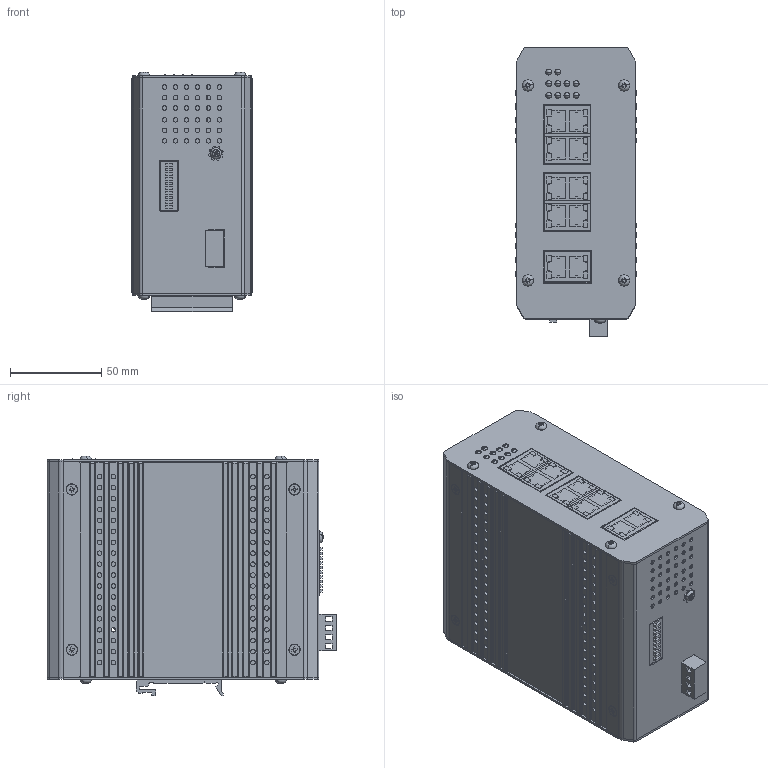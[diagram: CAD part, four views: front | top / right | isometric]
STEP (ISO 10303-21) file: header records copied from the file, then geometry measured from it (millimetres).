
FILE_DESCRIPTION (( 'STEP AP214' ), '1' );
FILE_NAME ('JetNet 3810G-3D_STP-20220511.STEP', '2022-05-11T11:18:17', ( '' ), ( '' ), 'SwSTEP 2.0', 'SolidWorks 2018', '' );
FILE_SCHEMA (( 'AUTOMOTIVE_DESIGN' ));
Length unit declared in the file: millimetre
Products named in the file (16): JetNet 3810G-3D_STP-20220511; 3810G____O_20100513__w_]-1.STEP; 3810-SW-pcb-asy__w_].STEP; _20100513__w_].STEP; 0-Screw-R-M3x6; 3D-DinRailKit-44W__w_].STEP; 3810G__e_O_20100513__w_].STEP; 3810G____O_20100513__w_].STEP; 3810G____O_20100513__w_]-0.STEP; S-TS-F-4P__w_].STEP; 3810G_SwitchBoard_20100517-20141117__w_].STEP; SCREW-ROUND-M3-WS-6L; 0-RJ-1x2-3008-3D__w_]__w_].STEP; 0-Screw-R-M3x6R; PSI-1010G-24V_ASM_3810G_20141117-STP.STEP; DIP-SW-10pin__w_].STEP
Assembly tree (37 placements, depth 4):
  JetNet 3810G-3D_STP-20220511
    PSI-1010G-24V_ASM_3810G_20141117-STP.STEP
      3810-SW-pcb-asy__w_].STEP
        0-RJ-1x2-3008-3D__w_]__w_].STEP  x5
        3810G_SwitchBoard_20100517-20141117__w_].STEP
        DIP-SW-10pin__w_].STEP
      3810G____O_20100513__w_].STEP
      3810G__e_O_20100513__w_].STEP
      S-TS-F-4P__w_].STEP
      3810G____O_20100513__w_]-0.STEP  x2
      _20100513__w_].STEP
      3810G____O_20100513__w_]-1.STEP
      3D-DinRailKit-44W__w_].STEP
    0-Screw-R-M3x6  x11
    0-Screw-R-M3x6R  x8
    SCREW-ROUND-M3-WS-6L
Bounding box: 66 x 158.7 x 131.6 mm (x, y, z)
Volume: 298360.6 mm3; surface area: 238676.3 mm2
Topology: 35 solids, 35 shells, 2177 faces, 6047 edges, 3999 vertices
Faces by surface type: plane 1028, cylinder 1017, cone 76, sphere 20, torus 18, bspline 18
Entity records: 45876 total; most frequent: CARTESIAN_POINT 11913, DIRECTION 6618, ORIENTED_EDGE 6510, EDGE_CURVE 3255, AXIS2_PLACEMENT_3D 2421, VERTEX_POINT 2163, LINE 1776, VECTOR 1776
